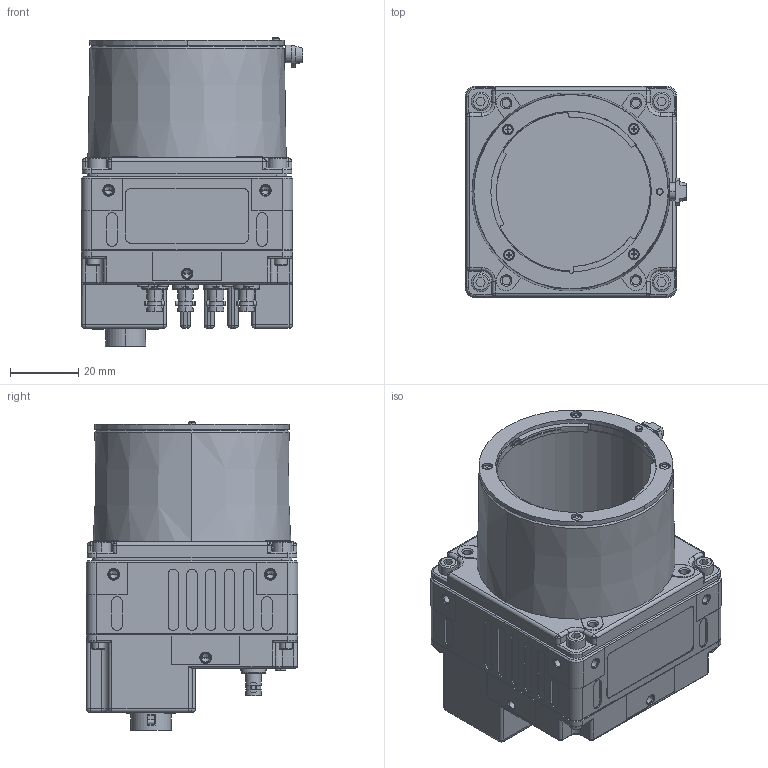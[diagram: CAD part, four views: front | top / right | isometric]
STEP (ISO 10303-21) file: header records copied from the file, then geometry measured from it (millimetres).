
FILE_DESCRIPTION((''),'2;1');
FILE_NAME('SP-45000M-CXP4A-F_MOCK','2022-02-24T18:03:41',('mta'),(''),'CREO PARAMETRIC BY PTC INC, 2019352','CREO PARAMETRIC BY PTC INC, 2019352','');
FILE_SCHEMA(('AUTOMOTIVE_DESIGN { 1 0 10303 214 1 1 1 1 }'));
Products named in the file (1): SP-45000M-CXP4A-F_MOCK
Bounding box: 64.9 x 62 x 90.6 mm (x, y, z)
Volume: 168497.9 mm3; surface area: 44953.9 mm2
Topology: 3 solids, 18 shells, 1709 faces, 4666 edges, 2992 vertices
Faces by surface type: plane 715, cylinder 638, cone 173, bspline 70, sphere 63, torus 50
Entity records: 72499 total; most frequent: CARTESIAN_POINT 16881, ORIENTED_EDGE 9118, DIRECTION 8812, EDGE_CURVE 4586, AXIS2_PLACEMENT_3D 3245, VERTEX_POINT 2992, VECTOR 2322, LINE 2322
